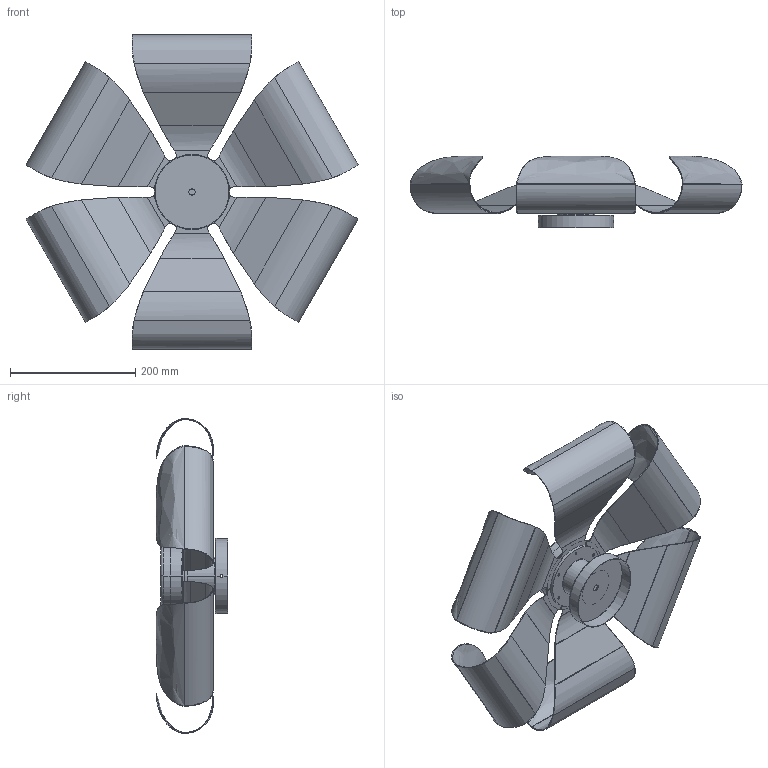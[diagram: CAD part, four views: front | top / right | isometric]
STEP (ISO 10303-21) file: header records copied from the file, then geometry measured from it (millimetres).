
FILE_DESCRIPTION (( 'STEP AP214' ), '1' );
FILE_NAME ('RITA_A1348_LED.STEP', '2025-09-04T15:32:16', ( '' ), ( '' ), 'SwSTEP 2.0', 'SolidWorks 2018', '' );
FILE_SCHEMA (( 'AUTOMOTIVE_DESIGN' ));
Length unit declared in the file: millimetre
Products named in the file (1): RITA_A1348_LED
Bounding box: 529.68 x 114.4 x 501.92 mm (x, y, z)
Volume: 570291.4 mm3; surface area: 714727.1 mm2
Topology: 12 solids, 12 shells, 358 faces, 927 edges, 594 vertices
Faces by surface type: bspline 138, plane 109, cylinder 105, torus 6
Entity records: 20754 total; most frequent: CARTESIAN_POINT 9146, ORIENTED_EDGE 1854, DIRECTION 1021, EDGE_CURVE 927, VERTEX_POINT 594, B_SPLINE_CURVE_WITH_KNOTS 544, EDGE_LOOP 423, AXIS2_PLACEMENT_3D 417
